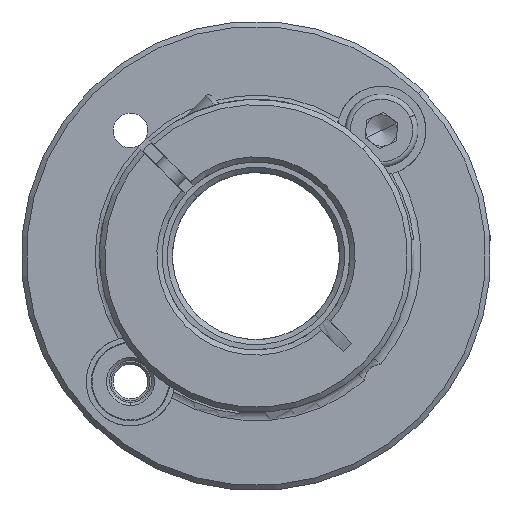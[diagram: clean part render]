
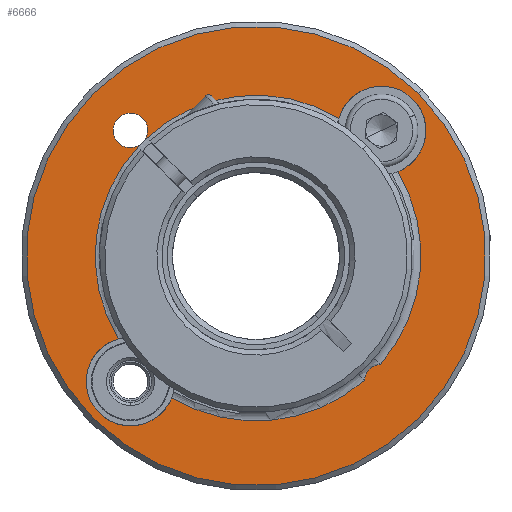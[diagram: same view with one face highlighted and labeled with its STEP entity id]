
A CAD part, front view. The second image highlights one B-rep face of the part: STEP entity #6666.
In plain terms, the highlighted planar face has unit normal (0, -1, 0).
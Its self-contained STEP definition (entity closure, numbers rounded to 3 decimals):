
#96 = CARTESIAN_POINT ( 'NONE',  ( -8.487, -8.743, 63.167 ) ) ;
#179 = EDGE_CURVE ( 'NONE', #6612, #8405, #2665, .T. ) ;
#190 = EDGE_CURVE ( 'NONE', #6952, #5174, #1516, .T. ) ;
#194 = VERTEX_POINT ( 'NONE', #7389 ) ;
#270 = EDGE_LOOP ( 'NONE', ( #5255, #1729 ) ) ;
#378 = CARTESIAN_POINT ( 'NONE',  ( 17.924, -8.743, 65.536 ) ) ;
#572 = ORIENTED_EDGE ( 'NONE', *, *, #5659, .T. ) ;
#852 = CARTESIAN_POINT ( 'NONE',  ( 17.393, -8.743, 65.005 ) ) ;
#886 = ORIENTED_EDGE ( 'NONE', *, *, #1811, .T. ) ;
#896 = EDGE_CURVE ( 'NONE', #5174, #1568, #2531, .T. ) ;
#1271 = DIRECTION ( 'NONE',  ( 0.707, 0., 0.707 ) ) ;
#1280 = DIRECTION ( 'NONE',  ( 0.707, 0., 0.707 ) ) ;
#1326 = AXIS2_PLACEMENT_3D ( 'NONE', #6020, #3067, #1562 ) ;
#1371 = VERTEX_POINT ( 'NONE', #8790 ) ;
#1420 = CARTESIAN_POINT ( 'NONE',  ( 14.388, -8.743, 62. ) ) ;
#1439 = VERTEX_POINT ( 'NONE', #1441 ) ;
#1441 = CARTESIAN_POINT ( 'NONE',  ( -12.659, -8.743, 34.953 ) ) ;
#1516 = CIRCLE ( 'NONE', #8459, 1.65 ) ;
#1562 = DIRECTION ( 'NONE',  ( 0.707, 0., 0.707 ) ) ;
#1568 = VERTEX_POINT ( 'NONE', #3096 ) ;
#1592 = DIRECTION ( 'NONE',  ( 0.707, 0., 0.707 ) ) ;
#1670 = DIRECTION ( 'NONE',  ( 0., 0., -1. ) ) ;
#1729 = ORIENTED_EDGE ( 'NONE', *, *, #3274, .T. ) ;
#1751 = AXIS2_PLACEMENT_3D ( 'NONE', #2767, #2662, #1271 ) ;
#1787 = VERTEX_POINT ( 'NONE', #3829 ) ;
#1811 = EDGE_CURVE ( 'NONE', #1371, #3276, #8060, .T. ) ;
#1820 = EDGE_CURVE ( 'NONE', #8405, #1787, #4045, .T. ) ;
#2063 = DIRECTION ( 'NONE',  ( 0., 1., 0. ) ) ;
#2077 = DIRECTION ( 'NONE',  ( 0.707, 0., 0.707 ) ) ;
#2083 = FACE_OUTER_BOUND ( 'NONE', #270, .T. ) ;
#2106 = CIRCLE ( 'NONE', #7744, 22. ) ;
#2135 = DIRECTION ( 'NONE',  ( 0., 1., 0. ) ) ;
#2216 = AXIS2_PLACEMENT_3D ( 'NONE', #1420, #5196, #8245 ) ;
#2247 = AXIS2_PLACEMENT_3D ( 'NONE', #8270, #2063, #7309 ) ;
#2307 = FACE_BOUND ( 'NONE', #5519, .T. ) ;
#2370 = CARTESIAN_POINT ( 'NONE',  ( 2.367, -8.743, 49.979 ) ) ;
#2440 = ORIENTED_EDGE ( 'NONE', *, *, #4607, .T. ) ;
#2531 = CIRCLE ( 'NONE', #7902, 1.65 ) ;
#2662 = DIRECTION ( 'NONE',  ( 0., 1., 0. ) ) ;
#2665 = CIRCLE ( 'NONE', #6379, 4.25 ) ;
#2767 = CARTESIAN_POINT ( 'NONE',  ( -9.653, -8.743, 37.958 ) ) ;
#2816 = CARTESIAN_POINT ( 'NONE',  ( 14.388, -8.743, 62. ) ) ;
#2821 = ORIENTED_EDGE ( 'NONE', *, *, #896, .T. ) ;
#2845 = CARTESIAN_POINT ( 'NONE',  ( -9.653, -8.743, 62. ) ) ;
#2882 = DIRECTION ( 'NONE',  ( 0., 1., 0. ) ) ;
#2943 = AXIS2_PLACEMENT_3D ( 'NONE', #6085, #3738, #1592 ) ;
#3067 = DIRECTION ( 'NONE',  ( 0., -1., 0. ) ) ;
#3096 = CARTESIAN_POINT ( 'NONE',  ( -8.247, -8.743, 61.137 ) ) ;
#3158 = CIRCLE ( 'NONE', #8429, 1.65 ) ;
#3245 = ORIENTED_EDGE ( 'NONE', *, *, #7048, .T. ) ;
#3274 = EDGE_CURVE ( 'NONE', #6690, #194, #5744, .T. ) ;
#3276 = VERTEX_POINT ( 'NONE', #9081 ) ;
#3434 = AXIS2_PLACEMENT_3D ( 'NONE', #2370, #8983, #4482 ) ;
#3581 = CARTESIAN_POINT ( 'NONE',  ( 10.304, -8.743, 63.176 ) ) ;
#3621 = EDGE_CURVE ( 'NONE', #7577, #6952, #3158, .T. ) ;
#3648 = DIRECTION ( 'NONE',  ( 0.707, 0., 0.707 ) ) ;
#3712 = DIRECTION ( 'NONE',  ( 0., -1., 0. ) ) ;
#3738 = DIRECTION ( 'NONE',  ( 0., 1., 0. ) ) ;
#3775 = ORIENTED_EDGE ( 'NONE', *, *, #1820, .T. ) ;
#3829 = CARTESIAN_POINT ( 'NONE',  ( 14.285, -8.743, 39.605 ) ) ;
#3867 = EDGE_CURVE ( 'NONE', #3276, #1439, #8556, .T. ) ;
#4045 = CIRCLE ( 'NONE', #3434, 15.8 ) ;
#4482 = DIRECTION ( 'NONE',  ( 0.707, 0., 0.707 ) ) ;
#4551 = AXIS2_PLACEMENT_3D ( 'NONE', #4770, #8460, #6312 ) ;
#4607 = EDGE_CURVE ( 'NONE', #8439, #6612, #5842, .T. ) ;
#4630 = CARTESIAN_POINT ( 'NONE',  ( -8.79, -8.743, 60.594 ) ) ;
#4660 = ORIENTED_EDGE ( 'NONE', *, *, #6566, .T. ) ;
#4670 = AXIS2_PLACEMENT_3D ( 'NONE', #4859, #7065, #6248 ) ;
#4717 = EDGE_CURVE ( 'NONE', #194, #6690, #2106, .T. ) ;
#4770 = CARTESIAN_POINT ( 'NONE',  ( 2.367, -8.743, 49.979 ) ) ;
#4859 = CARTESIAN_POINT ( 'NONE',  ( 14.388, -8.743, 37.958 ) ) ;
#4872 = CIRCLE ( 'NONE', #4551, 15.4 ) ;
#5095 = ORIENTED_EDGE ( 'NONE', *, *, #3621, .T. ) ;
#5174 = VERTEX_POINT ( 'NONE', #96 ) ;
#5196 = DIRECTION ( 'NONE',  ( 0., 1., 0. ) ) ;
#5255 = ORIENTED_EDGE ( 'NONE', *, *, #4717, .T. ) ;
#5367 = ORIENTED_EDGE ( 'NONE', *, *, #7522, .T. ) ;
#5370 = ORIENTED_EDGE ( 'NONE', *, *, #179, .T. ) ;
#5519 = EDGE_LOOP ( 'NONE', ( #3245, #886, #8237, #4660, #572, #5095, #5580, #2821, #5367, #2440, #5370, #3775 ) ) ;
#5521 = CARTESIAN_POINT ( 'NONE',  ( -10.82, -8.743, 60.833 ) ) ;
#5541 = PLANE ( 'NONE',  #4670 ) ;
#5580 = ORIENTED_EDGE ( 'NONE', *, *, #190, .T. ) ;
#5659 = EDGE_CURVE ( 'NONE', #6067, #7577, #4872, .T. ) ;
#5744 = CIRCLE ( 'NONE', #1326, 22. ) ;
#5802 = CIRCLE ( 'NONE', #2247, 15.4 ) ;
#5842 = CIRCLE ( 'NONE', #2216, 4.25 ) ;
#6001 = AXIS2_PLACEMENT_3D ( 'NONE', #6150, #9147, #6910 ) ;
#6002 = DIRECTION ( 'NONE',  ( 0., 1., 0. ) ) ;
#6020 = CARTESIAN_POINT ( 'NONE',  ( 2.367, -8.743, 49.979 ) ) ;
#6067 = VERTEX_POINT ( 'NONE', #9583 ) ;
#6085 = CARTESIAN_POINT ( 'NONE',  ( 2.367, -8.743, 49.979 ) ) ;
#6121 = DIRECTION ( 'NONE',  ( 0.707, 0., 0.707 ) ) ;
#6150 = CARTESIAN_POINT ( 'NONE',  ( -9.653, -8.743, 37.958 ) ) ;
#6248 = DIRECTION ( 'NONE',  ( -0.989, 0., -0.145 ) ) ;
#6312 = DIRECTION ( 'NONE',  ( 0.707, 0., 0.707 ) ) ;
#6379 = AXIS2_PLACEMENT_3D ( 'NONE', #2816, #2135, #2077 ) ;
#6382 = AXIS2_PLACEMENT_3D ( 'NONE', #8216, #3712, #1670 ) ;
#6566 = EDGE_CURVE ( 'NONE', #1439, #6067, #9475, .T. ) ;
#6612 = VERTEX_POINT ( 'NONE', #852 ) ;
#6666 = ADVANCED_FACE ( 'NONE', ( #2307, #2083 ), #5541, .T. ) ;
#6690 = VERTEX_POINT ( 'NONE', #378 ) ;
#6767 = CARTESIAN_POINT ( 'NONE',  ( -9.653, -8.743, 62. ) ) ;
#6822 = CARTESIAN_POINT ( 'NONE',  ( 2.367, -8.743, 49.979 ) ) ;
#6910 = DIRECTION ( 'NONE',  ( 0.707, 0., 0.707 ) ) ;
#6952 = VERTEX_POINT ( 'NONE', #5521 ) ;
#7048 = EDGE_CURVE ( 'NONE', #1787, #1371, #9607, .T. ) ;
#7065 = DIRECTION ( 'NONE',  ( 0., -1., 0. ) ) ;
#7217 = DIRECTION ( 'NONE',  ( 0., 1., 0. ) ) ;
#7309 = DIRECTION ( 'NONE',  ( 0.707, 0., 0.707 ) ) ;
#7389 = CARTESIAN_POINT ( 'NONE',  ( -13.189, -8.743, 34.423 ) ) ;
#7522 = EDGE_CURVE ( 'NONE', #1568, #8439, #5802, .T. ) ;
#7533 = DIRECTION ( 'NONE',  ( 0.707, 0., 0.707 ) ) ;
#7577 = VERTEX_POINT ( 'NONE', #4630 ) ;
#7744 = AXIS2_PLACEMENT_3D ( 'NONE', #6822, #9085, #6121 ) ;
#7902 = AXIS2_PLACEMENT_3D ( 'NONE', #2845, #7217, #1280 ) ;
#8060 = CIRCLE ( 'NONE', #2943, 15.8 ) ;
#8216 = CARTESIAN_POINT ( 'NONE',  ( 14.388, -8.743, 37.958 ) ) ;
#8237 = ORIENTED_EDGE ( 'NONE', *, *, #3867, .T. ) ;
#8245 = DIRECTION ( 'NONE',  ( 0.707, 0., 0.707 ) ) ;
#8270 = CARTESIAN_POINT ( 'NONE',  ( 2.367, -8.743, 49.979 ) ) ;
#8405 = VERTEX_POINT ( 'NONE', #9489 ) ;
#8429 = AXIS2_PLACEMENT_3D ( 'NONE', #6767, #6002, #7533 ) ;
#8439 = VERTEX_POINT ( 'NONE', #3581 ) ;
#8459 = AXIS2_PLACEMENT_3D ( 'NONE', #8832, #2882, #3648 ) ;
#8460 = DIRECTION ( 'NONE',  ( 0., 1., 0. ) ) ;
#8556 = CIRCLE ( 'NONE', #1751, 4.25 ) ;
#8790 = CARTESIAN_POINT ( 'NONE',  ( 12.742, -8.743, 38.062 ) ) ;
#8832 = CARTESIAN_POINT ( 'NONE',  ( -9.653, -8.743, 62. ) ) ;
#8983 = DIRECTION ( 'NONE',  ( 0., 1., 0. ) ) ;
#9081 = CARTESIAN_POINT ( 'NONE',  ( -5.701, -8.743, 36.395 ) ) ;
#9085 = DIRECTION ( 'NONE',  ( 0., -1., 0. ) ) ;
#9147 = DIRECTION ( 'NONE',  ( 0., 1., 0. ) ) ;
#9475 = CIRCLE ( 'NONE', #6001, 4.25 ) ;
#9489 = CARTESIAN_POINT ( 'NONE',  ( 15.952, -8.743, 58.048 ) ) ;
#9583 = CARTESIAN_POINT ( 'NONE',  ( -10.83, -8.743, 42.042 ) ) ;
#9607 = CIRCLE ( 'NONE', #6382, 1.65 ) ;
